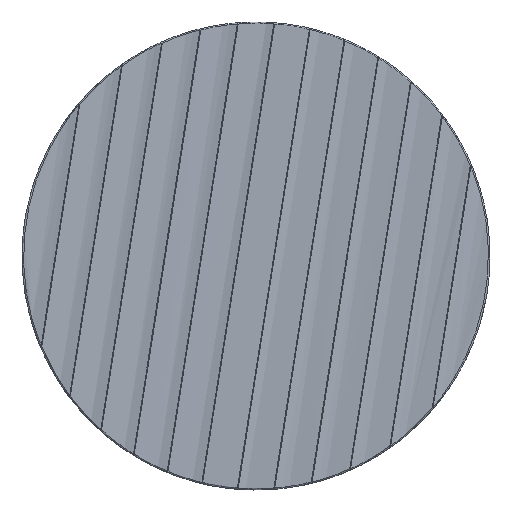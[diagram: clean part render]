
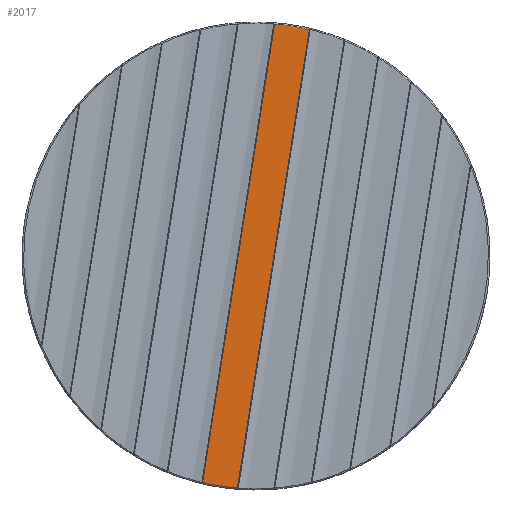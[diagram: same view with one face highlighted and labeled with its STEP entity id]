
A CAD part, top view. The second image highlights one B-rep face of the part: STEP entity #2017.
In plain terms, the highlighted free-form (B-spline) face has degree [1, 2] with [2, 9] control points.
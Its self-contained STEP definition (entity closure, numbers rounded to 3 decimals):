
#369=B_SPLINE_CURVE_WITH_KNOTS('',1,(#21471,#21472),.UNSPECIFIED.,.F.,.F.,
(2,2),(-360.916,0.),.UNSPECIFIED.);
#370=B_SPLINE_CURVE_WITH_KNOTS('',1,(#21473,#21474),.UNSPECIFIED.,.F.,.F.,
(2,2),(-360.916,0.),.UNSPECIFIED.);
#371=B_SPLINE_CURVE_WITH_KNOTS('',3,(#21475,#21476,#21477,#21478,#21479,
#21480,#21481,#21482,#21483,#21484,#21485,#21486),.UNSPECIFIED.,.F.,.F.,
(4,2,2,2,2,4),(0.,6.967,10.45,13.933,20.9,
27.867),.UNSPECIFIED.);
#372=B_SPLINE_CURVE_WITH_KNOTS('',3,(#21487,#21488,#21489,#21490,#21491,
#21492,#21493,#21494,#21495,#21496,#21497,#21498),.UNSPECIFIED.,.F.,.F.,
(4,2,2,2,2,4),(0.,6.967,10.45,13.933,20.9,
27.867),.UNSPECIFIED.);
#2017=ADVANCED_FACE('',(#3266),#18470,.T.);
#3266=FACE_OUTER_BOUND('',#4517,.T.);
#4517=EDGE_LOOP('',(#5904,#5905,#5906,#5907));
#5904=ORIENTED_EDGE('',*,*,#11720,.F.);
#5905=ORIENTED_EDGE('',*,*,#11723,.F.);
#5906=ORIENTED_EDGE('',*,*,#11721,.F.);
#5907=ORIENTED_EDGE('',*,*,#11722,.F.);
#11720=EDGE_CURVE('',#16577,#16575,#369,.T.);
#11721=EDGE_CURVE('',#16576,#16578,#370,.T.);
#11722=EDGE_CURVE('',#16575,#16576,#371,.T.);
#11723=EDGE_CURVE('',#16578,#16577,#372,.T.);
#16575=VERTEX_POINT('',#21467);
#16576=VERTEX_POINT('',#21468);
#16577=VERTEX_POINT('',#21469);
#16578=VERTEX_POINT('',#21470);
#18470=(
BOUNDED_SURFACE()
B_SPLINE_SURFACE(1,2,((#21449,#21450,#21451,#21452,#21453,#21454,#21455,
#21456,#21457),(#21458,#21459,#21460,#21461,#21462,#21463,#21464,#21465,
#21466)),.UNSPECIFIED.,.F.,.F.,.F.)
B_SPLINE_SURFACE_WITH_KNOTS((2,2),(3,2,2,2,3),(0.,434.401),(0.,
74.953,149.906,224.859,299.813),
 .UNSPECIFIED.)
GEOMETRIC_REPRESENTATION_ITEM()
RATIONAL_B_SPLINE_SURFACE(((1.,0.707,1.,0.707,1.,
0.707,1.,0.707,1.),(1.,0.707,1.,0.707,
1.,0.707,1.,0.707,1.)))
REPRESENTATION_ITEM('')
SURFACE()
);
#21449=CARTESIAN_POINT('',(13.473,-222.224,105.364));
#21450=CARTESIAN_POINT('',(13.473,-222.224,57.647));
#21451=CARTESIAN_POINT('',(-33.667,-214.828,57.647));
#21452=CARTESIAN_POINT('',(-80.807,-207.431,57.647));
#21453=CARTESIAN_POINT('',(-80.807,-207.431,105.364));
#21454=CARTESIAN_POINT('',(-80.807,-207.431,153.081));
#21455=CARTESIAN_POINT('',(-33.667,-214.828,153.081));
#21456=CARTESIAN_POINT('',(13.473,-222.224,153.081));
#21457=CARTESIAN_POINT('',(13.473,-222.224,105.364));
#21458=CARTESIAN_POINT('',(80.807,206.926,105.364));
#21459=CARTESIAN_POINT('',(80.807,206.926,57.647));
#21460=CARTESIAN_POINT('',(33.667,214.323,57.647));
#21461=CARTESIAN_POINT('',(-13.473,221.719,57.647));
#21462=CARTESIAN_POINT('',(-13.473,221.719,105.364));
#21463=CARTESIAN_POINT('',(-13.473,221.719,153.081));
#21464=CARTESIAN_POINT('',(33.667,214.323,153.081));
#21465=CARTESIAN_POINT('',(80.807,206.926,153.081));
#21466=CARTESIAN_POINT('',(80.807,206.926,105.364));
#21467=CARTESIAN_POINT('',(14.425,180.15,59.66));
#21468=CARTESIAN_POINT('',(41.519,175.899,59.66));
#21469=CARTESIAN_POINT('',(-41.519,-176.404,59.66));
#21470=CARTESIAN_POINT('',(-14.425,-180.655,59.66));
#21471=CARTESIAN_POINT('',(-41.519,-176.404,59.66));
#21472=CARTESIAN_POINT('',(14.425,180.15,59.66));
#21473=CARTESIAN_POINT('',(41.519,175.899,59.66));
#21474=CARTESIAN_POINT('',(-14.425,-180.655,59.66));
#21475=CARTESIAN_POINT('',(14.425,180.15,59.66));
#21476=CARTESIAN_POINT('',(16.659,179.978,58.99));
#21477=CARTESIAN_POINT('',(18.915,179.762,58.489));
#21478=CARTESIAN_POINT('',(22.332,179.364,57.985));
#21479=CARTESIAN_POINT('',(23.476,179.22,57.858));
#21480=CARTESIAN_POINT('',(25.776,178.906,57.689));
#21481=CARTESIAN_POINT('',(26.935,178.736,57.647));
#21482=CARTESIAN_POINT('',(30.385,178.194,57.649));
#21483=CARTESIAN_POINT('',(32.653,177.79,57.82));
#21484=CARTESIAN_POINT('',(37.131,176.903,58.49));
#21485=CARTESIAN_POINT('',(39.34,176.42,58.99));
#21486=CARTESIAN_POINT('',(41.519,175.899,59.66));
#21487=CARTESIAN_POINT('',(-14.425,-180.655,59.66));
#21488=CARTESIAN_POINT('',(-16.659,-180.483,58.99));
#21489=CARTESIAN_POINT('',(-18.915,-180.267,58.489));
#21490=CARTESIAN_POINT('',(-22.332,-179.869,57.985));
#21491=CARTESIAN_POINT('',(-23.476,-179.725,57.858));
#21492=CARTESIAN_POINT('',(-25.776,-179.411,57.689));
#21493=CARTESIAN_POINT('',(-26.935,-179.241,57.647));
#21494=CARTESIAN_POINT('',(-30.385,-178.699,57.649));
#21495=CARTESIAN_POINT('',(-32.653,-178.295,57.82));
#21496=CARTESIAN_POINT('',(-37.131,-177.408,58.49));
#21497=CARTESIAN_POINT('',(-39.34,-176.925,58.99));
#21498=CARTESIAN_POINT('',(-41.519,-176.404,59.66));
